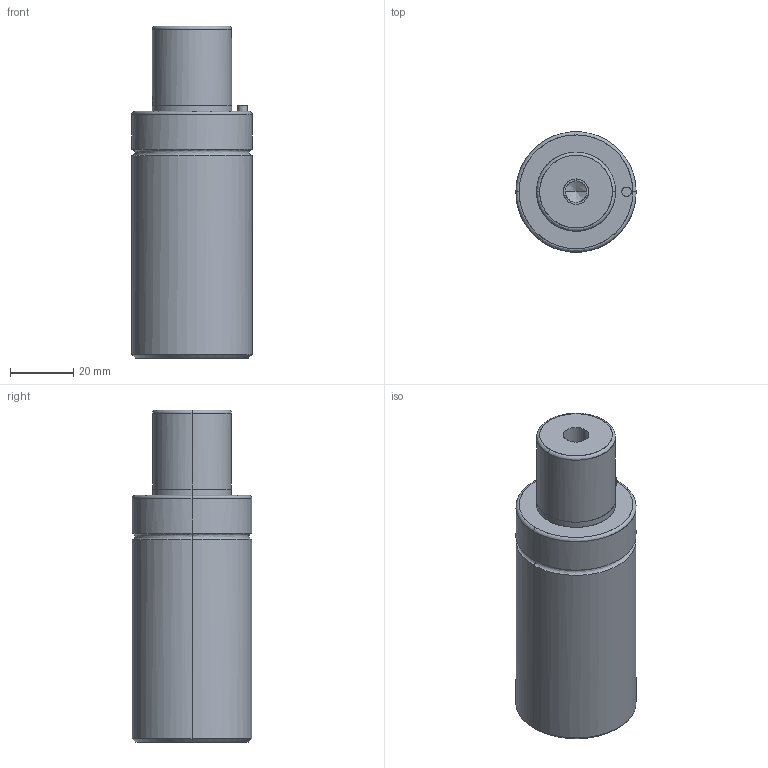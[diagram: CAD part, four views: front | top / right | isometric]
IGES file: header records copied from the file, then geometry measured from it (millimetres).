
Global section: file name: E:\UnigraphicsGraphicData\MISUMI_PRESS-PARTS\IGES\3d_gsm38-25_03930_r00.igs; native system: NX V5.0; preprocessor: UGS NX IGES V5.0; author: MISUMI; date: 20110105.160812; units: millimetre
Bounding box: 38 x 37.89 x 105 mm (x, y, z)
Surface area: 14677.8 mm2 (no closed solid volume)
Topology: 0 solids, 0 shells, 50 faces, 328 edges, 320 vertices
Faces by surface type: bspline 50
